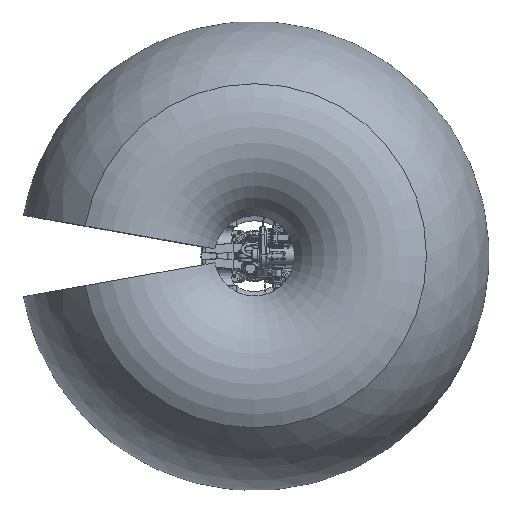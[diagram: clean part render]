
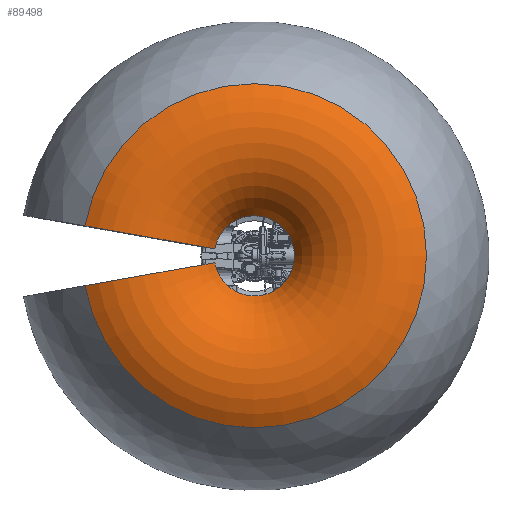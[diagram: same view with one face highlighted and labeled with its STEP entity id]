
A CAD part, top view. The second image highlights one B-rep face of the part: STEP entity #89498.
In plain terms, the highlighted toroidal (fillet/blend) face has major radius 2148.63 mm and minor radius 1597.52 mm.
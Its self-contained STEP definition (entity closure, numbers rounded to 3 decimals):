
#23966=TOROIDAL_SURFACE('',#95320,2148.627,1597.524);
#24055=FACE_OUTER_BOUND('',#29514,.T.);
#29514=EDGE_LOOP('',(#61782,#61783,#61784,#61785));
#35691=CIRCLE('',#95316,3048.241);
#35695=CIRCLE('',#95321,710.271);
#35696=CIRCLE('',#95322,1597.524);
#35697=CIRCLE('',#95323,1597.524);
#39066=VERTEX_POINT('',#130081);
#39067=VERTEX_POINT('',#130082);
#39070=VERTEX_POINT('',#130090);
#39071=VERTEX_POINT('',#130091);
#48032=EDGE_CURVE('',#39066,#39067,#35691,.T.);
#48036=EDGE_CURVE('',#39070,#39071,#35695,.T.);
#48037=EDGE_CURVE('',#39067,#39071,#35696,.T.);
#48038=EDGE_CURVE('',#39066,#39070,#35697,.T.);
#61782=ORIENTED_EDGE('',*,*,#48036,.T.);
#61783=ORIENTED_EDGE('',*,*,#48037,.F.);
#61784=ORIENTED_EDGE('',*,*,#48032,.F.);
#61785=ORIENTED_EDGE('',*,*,#48038,.T.);
#89498=ADVANCED_FACE('',(#24055),#23966,.T.);
#95316=AXIS2_PLACEMENT_3D('',#130083,#104383,#104384);
#95320=AXIS2_PLACEMENT_3D('',#130089,#104391,#104392);
#95321=AXIS2_PLACEMENT_3D('',#130092,#104393,#104394);
#95322=AXIS2_PLACEMENT_3D('',#130093,#104395,#104396);
#95323=AXIS2_PLACEMENT_3D('',#130094,#104397,#104398);
#104383=DIRECTION('center_axis',(0.,0.,
-1.));
#104384=DIRECTION('ref_axis',(0.,-1.,0.));
#104391=DIRECTION('center_axis',(0.,0.,
1.));
#104392=DIRECTION('ref_axis',(1.,0.,0.));
#104393=DIRECTION('center_axis',(0.,0.,
-1.));
#104394=DIRECTION('ref_axis',(0.,-1.,0.));
#104395=DIRECTION('center_axis',(-0.174,0.985,0.));
#104396=DIRECTION('ref_axis',(0.887,0.156,0.435));
#104397=DIRECTION('center_axis',(0.174,0.985,0.));
#104398=DIRECTION('ref_axis',(0.887,-0.156,0.435));
#130081=CARTESIAN_POINT('',(-3001.932,529.322,3656.788));
#130082=CARTESIAN_POINT('',(-3001.932,-529.322,3656.788));
#130083=CARTESIAN_POINT('Origin',(0.,0.,
3656.788));
#130089=CARTESIAN_POINT('Origin',(0.,0.,
2336.645));
#130090=CARTESIAN_POINT('',(-699.481,123.337,3031.783));
#130091=CARTESIAN_POINT('',(-699.481,-123.337,3031.783));
#130092=CARTESIAN_POINT('Origin',(0.,0.,
3031.783));
#130093=CARTESIAN_POINT('Origin',(-2115.984,-373.105,2336.645));
#130094=CARTESIAN_POINT('Origin',(-2115.984,373.105,2336.645));
